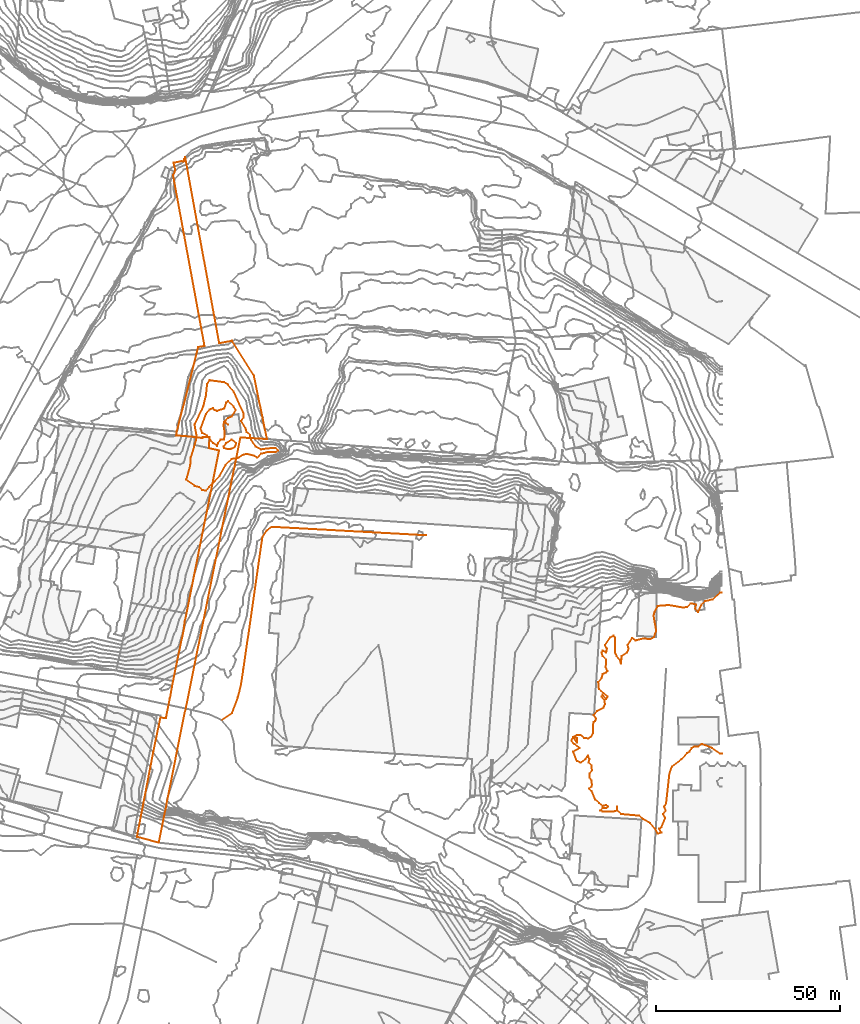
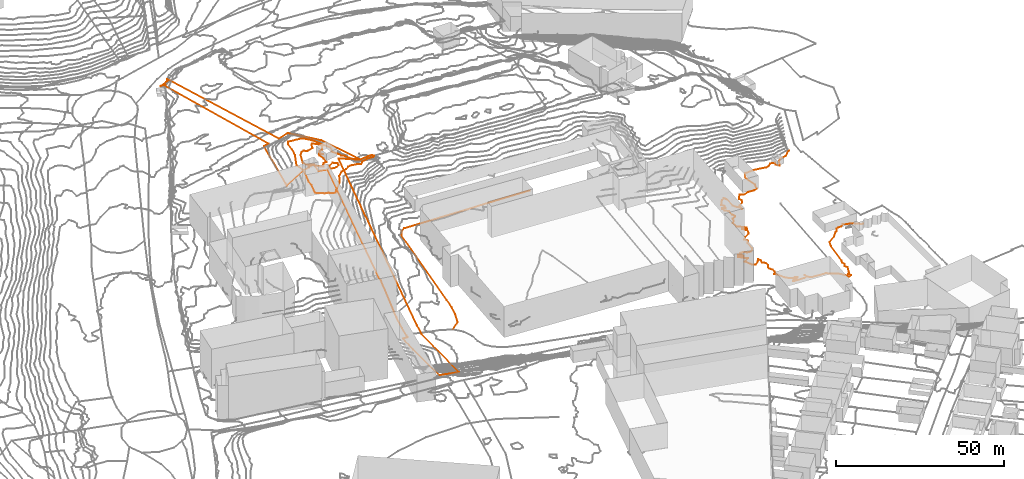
# Not in any storey, part 267 of 419: 6 proxies.
"""IFC2X3 model written with IfcOpenShell, lengths in metres."""

from ifc_helpers import new_model, entity, si_unit, frame, origin_with_axes, place, context, subcontext, project, element, save


model = new_model("IFC2X3")

# Units and contexts
model_context = context("Model", 3, precision=1e-05, world=origin_with_axes())
body_context = subcontext(model_context, "Body", "Model", "MODEL_VIEW")
ifc_project = project(units=[si_unit("AREAUNIT", "SQUARE_METRE"), si_unit("LENGTHUNIT", "METRE")], contexts=[model_context])

# Proxies
proxy_1_placement = place(None, frame((840.3920204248, 392.4976909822, 71.5), z_axis=(0.0, 0.0, 1.0), x_axis=(1.0, 0.0, 0.0)))
element("IfcBuildingElementProxy", 1, at=proxy_1_placement, Name="Route 228", ObjectType="NOTDEFINED", context=body_context, shape_type="GeometricCurveSet", body=[
    entity("IfcGeometricCurveSet", [entity("IfcPolyline", [entity("IfcCartesianPoint", [0.0, 0.0, 0.0]), entity("IfcCartesianPoint", [2.7999999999, 1.9000000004, 0.6]), entity("IfcCartesianPoint", [4.3999999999, 6.1000000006, 0.4]), entity("IfcCartesianPoint", [5.2999999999, 9.8000000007, 0.4]), entity("IfcCartesianPoint", [5.8999999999, 13.7000000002, 0.4]), entity("IfcCartesianPoint", [11.1, 49.8000000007, 0.2]), entity("IfcCartesianPoint", [12.2, 51.6000000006, 0.2]), entity("IfcCartesianPoint", [13.6, 52.6000000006, 0.2]), entity("IfcCartesianPoint", [55.6, 50.3000000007, 0.7])])]),
])
proxy_2_placement = place(None, frame((817.3120204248, 360.6976909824, 82.2055196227), z_axis=(0.0, 0.0, 1.0), x_axis=(1.0, 0.0, 0.0)))
element("IfcBuildingElementProxy", 2, at=proxy_2_placement, Name="Cadastre 51", ObjectType="NOTDEFINED", context=body_context, shape_type="GeometricCurveSet", body=[
    entity("IfcGeometricCurveSet", [entity("IfcPolyline", [entity("IfcCartesianPoint", [5.9800000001, -1.5800000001, -0.0122808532]), entity("IfcCartesianPoint", [0.0, 0.0, 0.0]), entity("IfcCartesianPoint", [4.4700000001, 23.0600000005, -6.2662197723]), entity("IfcCartesianPoint", [6.4, 32.4700000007, -8.5206094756]), entity("IfcCartesianPoint", [7.91, 32.3200000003, -8.5389579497]), entity("IfcCartesianPoint", [8.0800000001, 33.2000000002, -8.6105191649]), entity("IfcCartesianPoint", [8.9700000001, 37.5899999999, -8.8118428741]), entity("IfcCartesianPoint", [9.8500000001, 42.4100000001, -8.24923207]), entity("IfcCartesianPoint", [12.8600000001, 56.8900000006, -4.438321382]), entity("IfcCartesianPoint", [13.0, 58.5700000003, -4.3278534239]), entity("IfcCartesianPoint", [13.52, 60.8000000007, -3.9609229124]), entity("IfcCartesianPoint", [22.3600000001, 105.1800000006, 3.3041467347]), entity("IfcCartesianPoint", [19.6100000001, 105.8000000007, 3.4314589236]), entity("IfcCartesianPoint", [19.8200000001, 108.8600000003, 3.8448457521]), entity("IfcCartesianPoint", [17.9, 108.9000000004, 3.6192025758]), entity("IfcCartesianPoint", [17.89, 108.54, 3.5813581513]), entity("IfcCartesianPoint", [15.78, 108.8600000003, 2.8708806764]), entity("IfcCartesianPoint", [10.63, 109.2700000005, -0.826243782]), entity("IfcCartesianPoint", [10.8, 109.79, -0.8295185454]), entity("IfcCartesianPoint", [10.88, 110.3000000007, -0.8755190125]), entity("IfcCartesianPoint", [16.6800000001, 133.3300000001, -3.1840596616]), entity("IfcCartesianPoint", [18.4400000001, 133.6600000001, -3.1989890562]), entity("IfcCartesianPoint", [9.87, 180.1100000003, -7.4341042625]), entity("IfcCartesianPoint", [10.26, 181.0100000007, -7.6796363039]), entity("IfcCartesianPoint", [10.4600000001, 181.4900000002, -7.8243571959]), entity("IfcCartesianPoint", [10.01, 183.5800000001, -9.4763488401]), entity("IfcCartesianPoint", [10.3300000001, 183.5700000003, -9.4012354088]), entity("IfcCartesianPoint", [12.2200000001, 183.9400000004, -9.0618460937]), entity("IfcCartesianPoint", [12.54, 183.8600000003, -8.8466549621]), entity("IfcCartesianPoint", [12.9400000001, 184.0100000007, -8.652136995]), entity("IfcCartesianPoint", [12.9, 184.4900000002, -8.8575292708]), entity("IfcCartesianPoint", [13.16, 185.0899999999, -8.9584726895]), entity("IfcCartesianPoint", [22.42, 134.3900000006, -3.2061852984]), entity("IfcCartesianPoint", [25.87, 135.0500000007, -2.730966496]), entity("IfcCartesianPoint", [31.87, 125.6000000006, -1.7324988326]), entity("IfcCartesianPoint", [35.42, 108.2800000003, 0.5045421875]), entity("IfcCartesianPoint", [28.1800000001, 108.7300000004, 3.1324098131]), entity("IfcCartesianPoint", [13.67, 36.7400000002, -8.9299635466]), entity("IfcCartesianPoint", [12.7100000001, 32.29, -8.9937185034]), entity("IfcCartesianPoint", [5.9800000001, -1.5800000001, -0.0122808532])])]),
])
proxy_3_placement = place(None, frame((834.6591820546, 471.8976909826, 86.0), z_axis=(0.0, 0.0, 1.0), x_axis=(1.0, 0.0, 0.0)))
element("IfcBuildingElementProxy", 3, at=proxy_3_placement, Name="Contour 86.0 m", ObjectType="NOTDEFINED", context=body_context, shape_type="GeometricCurveSet", body=[
    entity("IfcGeometricCurveSet", [entity("IfcPolyline", [entity("IfcCartesianPoint", [4.7055593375, -4.0, 0.0]), entity("IfcCartesianPoint", [4.4328383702, -4.75, 0.0]), entity("IfcCartesianPoint", [3.4328383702, -4.0000076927, 0.0]), entity("IfcCartesianPoint", [1.8078324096, -2.0, 0.0]), entity("IfcCartesianPoint", [0.4328383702, -1.2727209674, 0.0]), entity("IfcCartesianPoint", [0.0, 0.0, 0.0]), entity("IfcCartesianPoint", [1.4328383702, 3.8518508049, 0.0]), entity("IfcCartesianPoint", [2.4328383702, 5.1817992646, 0.0]), entity("IfcCartesianPoint", [3.4328383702, 5.5000124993, 0.0]), entity("IfcCartesianPoint", [3.7964810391, 5.0, 0.0]), entity("IfcCartesianPoint", [4.4328383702, 4.7741927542, 0.0]), entity("IfcCartesianPoint", [6.4328383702, 5.39996948, 0.0]), entity("IfcCartesianPoint", [6.9713089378, 7.0, 0.0]), entity("IfcCartesianPoint", [7.4328383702, 7.4000000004, 0.0]), entity("IfcCartesianPoint", [8.9328429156, 6.0, 0.0]), entity("IfcCartesianPoint", [9.5644236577, 5.0, 0.0]), entity("IfcCartesianPoint", [8.4328383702, 3.2105284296, 0.0]), entity("IfcCartesianPoint", [7.4328383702, 2.8749761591, 0.0]), entity("IfcCartesianPoint", [6.6550323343, 2.0, 0.0]), entity("IfcCartesianPoint", [7.4328583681, 1.0, 0.0]), entity("IfcCartesianPoint", [6.4328383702, 1.6667090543, 0.0]), entity("IfcCartesianPoint", [6.2223099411, 1.0, 0.0]), entity("IfcCartesianPoint", [6.5578204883, -1.0, 0.0]), entity("IfcCartesianPoint", [6.4328415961, -3.0, 0.0]), entity("IfcCartesianPoint", [5.4328383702, -3.0400085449, 0.0]), entity("IfcCartesianPoint", [4.7055593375, -4.0, 0.0])])]),
])
proxy_4_placement = place(None, frame((840.9278399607, 466.8976909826, 85.0), z_axis=(0.0, 0.0, 1.0), x_axis=(1.0, 0.0, 0.0)))
element("IfcBuildingElementProxy", 4, at=proxy_4_placement, Name="Contour 85.0 m", ObjectType="NOTDEFINED", context=body_context, shape_type="GeometricCurveSet", body=[
    entity("IfcGeometricCurveSet", [entity("IfcPolyline", [entity("IfcCartesianPoint", [2.1641804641, -0.5581341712, 0.0]), entity("IfcCartesianPoint", [3.0872686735, 0.0, 0.0]), entity("IfcCartesianPoint", [3.4308505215, 1.0, 0.0]), entity("IfcCartesianPoint", [2.1641804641, 1.9047593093, 0.0]), entity("IfcCartesianPoint", [0.6641814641, 1.0, 0.0]), entity("IfcCartesianPoint", [0.0, 0.0, 0.0]), entity("IfcCartesianPoint", [0.1641804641, -0.3793112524, 0.0]), entity("IfcCartesianPoint", [1.1641804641, -0.6923001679, 0.0]), entity("IfcCartesianPoint", [2.1641804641, -0.5581341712, 0.0])])]),
])
proxy_5_placement = place(None, frame((830.7586701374, 457.8976909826, 85.0), z_axis=(0.0, 0.0, 1.0), x_axis=(1.0, 0.0, 0.0)))
element("IfcBuildingElementProxy", 5, at=proxy_5_placement, Name="Contour 85.0 m", ObjectType="NOTDEFINED", context=body_context, shape_type="GeometricCurveSet", body=[
    entity("IfcGeometricCurveSet", [entity("IfcPolyline", [entity("IfcCartesianPoint", [6.1547720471, -2.0, 0.0]), entity("IfcCartesianPoint", [5.3333502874, -2.958325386, 0.0]), entity("IfcCartesianPoint", [4.3333502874, -2.7692352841, 0.0]), entity("IfcCartesianPoint", [3.4999957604, -2.0, 0.0]), entity("IfcCartesianPoint", [2.3333502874, -1.6666497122, 0.0]), entity("IfcCartesianPoint", [0.0, 0.0, 0.0]), entity("IfcCartesianPoint", [1.1000203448, 4.0, 0.0]), entity("IfcCartesianPoint", [1.2476391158, 6.0, 0.0]), entity("IfcCartesianPoint", [2.7047794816, 11.0, 0.0]), entity("IfcCartesianPoint", [2.8274666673, 12.0, 0.0]), entity("IfcCartesianPoint", [2.2745235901, 15.0, 0.0]), entity("IfcCartesianPoint", [4.631854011, 20.0, 0.0]), entity("IfcCartesianPoint", [5.3656031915, 23.0, 0.0]), entity("IfcCartesianPoint", [5.6723302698, 26.0, 0.0]), entity("IfcCartesianPoint", [6.3333502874, 27.086958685, 0.0]), entity("IfcCartesianPoint", [10.3333502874, 26.5555524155, 0.0]), entity("IfcCartesianPoint", [11.3333502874, 25.923079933, 0.0]), entity("IfcCartesianPoint", [12.9503719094, 24.0, 0.0]), entity("IfcCartesianPoint", [15.6467826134, 18.0, 0.0]), entity("IfcCartesianPoint", [15.5686470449, 17.0, 0.0]), entity("IfcCartesianPoint", [14.9666853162, 16.0, 0.0]), entity("IfcCartesianPoint", [16.2083431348, 14.0, 0.0]), entity("IfcCartesianPoint", [16.4285728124, 13.0, 0.0]), entity("IfcCartesianPoint", [17.3333502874, 12.20834128, 0.0]), entity("IfcCartesianPoint", [17.6515317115, 11.0, 0.0]), entity("IfcCartesianPoint", [18.940489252, 9.0, 0.0]), entity("IfcCartesianPoint", [20.3333502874, 8.2884642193, 0.0]), entity("IfcCartesianPoint", [23.3333502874, 8.673078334, 0.0]), entity("IfcCartesianPoint", [24.3333502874, 8.5857156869, 0.0]), entity("IfcCartesianPoint", [25.0054867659, 8.0, 0.0]), entity("IfcCartesianPoint", [24.3333502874, 7.5494483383, 0.0]), entity("IfcCartesianPoint", [22.3333502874, 7.582276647, 0.0]), entity("IfcCartesianPoint", [20.3333502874, 7.1176483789, 0.0]), entity("IfcCartesianPoint", [19.3333502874, 5.9999978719, 0.0]), entity("IfcCartesianPoint", [18.3333502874, 6.5882326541, 0.0]), entity("IfcCartesianPoint", [16.3333502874, 7.0714441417, 0.0]), entity("IfcCartesianPoint", [15.3333502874, 6.7727146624, 0.0]), entity("IfcCartesianPoint", [14.1905164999, 6.0, 0.0]), entity("IfcCartesianPoint", [12.3333502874, 5.6747005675, 0.0]), entity("IfcCartesianPoint", [10.6458490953, 4.0, 0.0]), entity("IfcCartesianPoint", [9.0370557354, 1.0, 0.0]), entity("IfcCartesianPoint", [6.1547720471, -2.0, 0.0])])]),
])
proxy_6_placement = place(None, frame((935.5920454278, 386.8976909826, 68.0), z_axis=(0.0, 0.0, 1.0), x_axis=(1.0, 0.0, 0.0)))
element("IfcBuildingElementProxy", 6, at=proxy_6_placement, Name="Contour 68.0 m", ObjectType="NOTDEFINED", context=body_context, shape_type="GeometricCurveSet", body=[
    entity("IfcGeometricCurveSet", [entity("IfcPolyline", [entity("IfcCartesianPoint", [40.999974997, 40.3064541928, 0.0]), entity("IfcCartesianPoint", [40.499974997, 40.3064541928, 0.0]), entity("IfcCartesianPoint", [38.499974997, 38.4464305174, 0.0]), entity("IfcCartesianPoint", [36.3648326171, 38.0, 0.0]), entity("IfcCartesianPoint", [35.3888450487, 37.0, 0.0]), entity("IfcCartesianPoint", [34.499974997, 34.9999947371, 0.0]), entity("IfcCartesianPoint", [33.6428632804, 36.0, 0.0]), entity("IfcCartesianPoint", [33.9999687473, 37.0, 0.0]), entity("IfcCartesianPoint", [32.499974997, 37.3725522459, 0.0]), entity("IfcCartesianPoint", [31.499974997, 36.3999938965, 0.0]), entity("IfcCartesianPoint", [30.499974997, 36.1818213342, 0.0]), entity("IfcCartesianPoint", [26.499974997, 36.8999771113, 0.0]), entity("IfcCartesianPoint", [23.499974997, 36.6667090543, 0.0]), entity("IfcCartesianPoint", [22.6111049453, 35.0, 0.0]), entity("IfcCartesianPoint", [22.3999521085, 34.0, 0.0]), entity("IfcCartesianPoint", [23.099974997, 30.0, 0.0]), entity("IfcCartesianPoint", [22.499974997, 28.1999694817, 0.0]), entity("IfcCartesianPoint", [21.499974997, 27.5999999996, 0.0]), entity("IfcCartesianPoint", [19.499974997, 27.8000305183, 0.0]), entity("IfcCartesianPoint", [17.499974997, 27.2962983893, 0.0]), entity("IfcCartesianPoint", [16.499974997, 27.9374880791, 0.0]), entity("IfcCartesianPoint", [15.3124779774, 26.0, 0.0]), entity("IfcCartesianPoint", [15.6249988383, 25.0, 0.0]), entity("IfcCartesianPoint", [15.1666840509, 24.0, 0.0]), entity("IfcCartesianPoint", [13.7221689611, 23.0, 0.0]), entity("IfcCartesianPoint", [13.5000083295, 21.0, 0.0]), entity("IfcCartesianPoint", [13.2143074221, 22.0, 0.0]), entity("IfcCartesianPoint", [12.3570867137, 23.0, 0.0]), entity("IfcCartesianPoint", [11.9285308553, 24.0, 0.0]), entity("IfcCartesianPoint", [11.9166575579, 28.0, 0.0]), entity("IfcCartesianPoint", [11.499974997, 28.6250238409, 0.0]), entity("IfcCartesianPoint", [10.499974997, 27.9999833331, 0.0]), entity("IfcCartesianPoint", [9.1428087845, 26.0, 0.0]), entity("IfcCartesianPoint", [9.7000055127, 25.0, 0.0]), entity("IfcCartesianPoint", [9.499974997, 23.9999000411, 0.0]), entity("IfcCartesianPoint", [8.499974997, 24.4999500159, 0.0]), entity("IfcCartesianPoint", [8.2499273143, 24.0, 0.0]), entity("IfcCartesianPoint", [8.499974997, 23.0000999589, 0.0]), entity("IfcCartesianPoint", [9.499974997, 22.0000999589, 0.0]), entity("IfcCartesianPoint", [9.3570867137, 20.0, 0.0]), entity("IfcCartesianPoint", [9.8333083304, 19.0, 0.0]), entity("IfcCartesianPoint", [9.499974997, 18.5555649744, 0.0]), entity("IfcCartesianPoint", [8.499974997, 18.166659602, 0.0]), entity("IfcCartesianPoint", [8.2499988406, 17.0, 0.0]), entity("IfcCartesianPoint", [7.3420887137, 16.0, 0.0]), entity("IfcCartesianPoint", [7.5000083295, 14.0, 0.0]), entity("IfcCartesianPoint", [9.8332659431, 12.0, 0.0]), entity("IfcCartesianPoint", [9.499974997, 11.3334181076, 0.0]), entity("IfcCartesianPoint", [8.499974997, 12.4999500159, 0.0]), entity("IfcCartesianPoint", [8.2999444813, 12.0, 0.0]), entity("IfcCartesianPoint", [9.0000249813, 11.0, 0.0]), entity("IfcCartesianPoint", [9.1665568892, 10.0, 0.0]), entity("IfcCartesianPoint", [8.7500226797, 9.0, 0.0]), entity("IfcCartesianPoint", [6.9444100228, 8.0, 0.0]), entity("IfcCartesianPoint", [6.099959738, 7.0, 0.0]), entity("IfcCartesianPoint", [6.7221689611, 6.0, 0.0]), entity("IfcCartesianPoint", [6.499974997, 5.3334181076, 0.0]), entity("IfcCartesianPoint", [6.0000249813, 5.0, 0.0]), entity("IfcCartesianPoint", [5.8888615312, 2.0, 0.0]), entity("IfcCartesianPoint", [5.2999749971, 1.0, 0.0]), entity("IfcCartesianPoint", [4.499974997, 0.5789431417, 0.0]), entity("IfcCartesianPoint", [3.499974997, 0.7333299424, 0.0]), entity("IfcCartesianPoint", [2.499974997, 1.4999833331, 0.0]), entity("IfcCartesianPoint", [1.499974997, 1.4999500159, 0.0]), entity("IfcCartesianPoint", [0.5000749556, 1.0, 0.0]), entity("IfcCartesianPoint", [1.499974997, 0.6665818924, 0.0]), entity("IfcCartesianPoint", [1.499974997, -0.5000250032, 0.0]), entity("IfcCartesianPoint", [0.499974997, 0.9999499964, 0.0]), entity("IfcCartesianPoint", [0.0, 0.0, 0.0]), entity("IfcCartesianPoint", [0.8333931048, -1.0, 0.0]), entity("IfcCartesianPoint", [2.2499273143, -2.0, 0.0]), entity("IfcCartesianPoint", [0.5000083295, -3.0, 0.0]), entity("IfcCartesianPoint", [1.499974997, -5.4999500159, 0.0]), entity("IfcCartesianPoint", [2.499974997, -5.9999499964, 0.0]), entity("IfcCartesianPoint", [3.8332659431, -5.0, 0.0]), entity("IfcCartesianPoint", [4.4999892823, -4.0, 0.0]), entity("IfcCartesianPoint", [4.8999902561, -5.0, 0.0]), entity("IfcCartesianPoint", [4.7000055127, -6.0, 0.0]), entity("IfcCartesianPoint", [5.499974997, -6.7999694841, 0.0]), entity("IfcCartesianPoint", [5.6110829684, -8.0, 0.0]), entity("IfcCartesianPoint", [4.9999812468, -9.0, 0.0]), entity("IfcCartesianPoint", [4.9444100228, -10.0, 0.0]), entity("IfcCartesianPoint", [5.499974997, -10.8333121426, 0.0]), entity("IfcCartesianPoint", [5.6110672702, -12.0, 0.0]), entity("IfcCartesianPoint", [5.499974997, -12.5000250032, 0.0]), entity("IfcCartesianPoint", [4.8333931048, -13.0, 0.0]), entity("IfcCartesianPoint", [5.499974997, -13.6665818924, 0.0]), entity("IfcCartesianPoint", [6.499974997, -15.9999750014, 0.0]), entity("IfcCartesianPoint", [7.499974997, -16.9999750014, 0.0]), entity("IfcCartesianPoint", [8.499974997, -17.7499523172, 0.0]), entity("IfcCartesianPoint", [9.499974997, -17.4999500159, 0.0]), entity("IfcCartesianPoint", [10.0000249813, -18.0, 0.0]), entity("IfcCartesianPoint", [9.499974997, -18.3334181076, 0.0]), entity("IfcCartesianPoint", [8.499974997, -18.3334181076, 0.0]), entity("IfcCartesianPoint", [7.8333931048, -19.0, 0.0]), entity("IfcCartesianPoint", [8.499974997, -19.2499761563, 0.0]), entity("IfcCartesianPoint", [11.499974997, -19.2500476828, 0.0]), entity("IfcCartesianPoint", [12.4998750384, -19.0, 0.0]), entity("IfcCartesianPoint", [12.499974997, -17.9999750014, 0.0]), entity("IfcCartesianPoint", [12.5000250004, -19.0, 0.0]), entity("IfcCartesianPoint", [13.5000749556, -20.0, 0.0]), entity("IfcCartesianPoint", [18.499974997, -20.4444350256, 0.0]), entity("IfcCartesianPoint", [19.499974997, -21.357166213, 0.0]), entity("IfcCartesianPoint", [21.499974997, -22.4999500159, 0.0]), entity("IfcCartesianPoint", [22.8333931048, -24.0, 0.0]), entity("IfcCartesianPoint", [23.499974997, -25.3334181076, 0.0]), entity("IfcCartesianPoint", [24.4998750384, -25.0, 0.0]), entity("IfcCartesianPoint", [23.8999444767, -24.0, 0.0]), entity("IfcCartesianPoint", [24.499974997, -23.5714441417, 0.0]), entity("IfcCartesianPoint", [25.5740375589, -21.0, 0.0]), entity("IfcCartesianPoint", [24.9999624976, -20.0, 0.0]), entity("IfcCartesianPoint", [25.6851685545, -19.0, 0.0]), entity("IfcCartesianPoint", [25.2999444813, -18.0, 0.0]), entity("IfcCartesianPoint", [25.8103143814, -17.0, 0.0]), entity("IfcCartesianPoint", [26.699974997, -9.0, 0.0]), entity("IfcCartesianPoint", [27.3823464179, -7.0, 0.0]), entity("IfcCartesianPoint", [30.0714191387, -5.0, 0.0]), entity("IfcCartesianPoint", [31.499974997, -3.3749940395, 0.0]), entity("IfcCartesianPoint", [32.1666416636, -3.0, 0.0]), entity("IfcCartesianPoint", [32.7500226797, -2.0, 0.0]), entity("IfcCartesianPoint", [33.499974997, -1.5714441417, 0.0]), entity("IfcCartesianPoint", [34.499974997, -1.5714441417, 0.0]), entity("IfcCartesianPoint", [35.499974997, -0.8749761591, 0.0]), entity("IfcCartesianPoint", [38.2499273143, -2.0, 0.0]), entity("IfcCartesianPoint", [40.499974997, -3.5625014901, 0.0]), entity("IfcCartesianPoint", [40.999974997, -3.5625014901, 0.0])])]),
])

save(model, "model.ifc")
